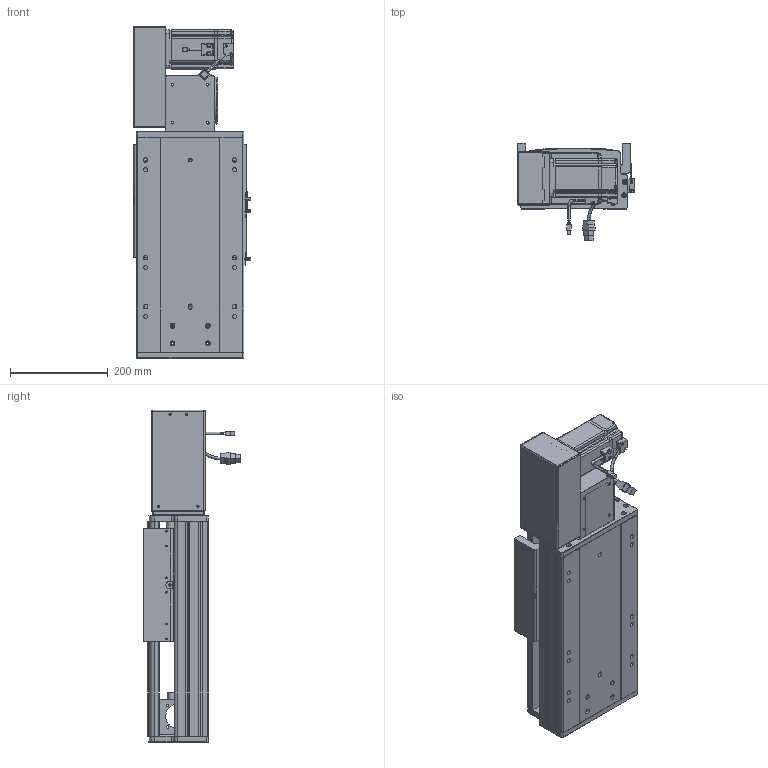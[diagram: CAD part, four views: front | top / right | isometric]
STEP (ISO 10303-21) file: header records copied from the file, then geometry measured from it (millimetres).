
FILE_DESCRIPTION (( 'STEP AP203' ), '1' );
FILE_NAME ('RY220-T-300-LK.SLDASM_100.step', '2022-07-25T08:12:48', ( '' ), ( '' ), 'SwSTEP 2.0', 'SolidWorks 2016', '' );
FILE_SCHEMA (( 'CONFIG_CONTROL_DESIGN' ));
Length unit declared in the file: millimetre
Products named in the file (14): RY220-俋离672覜茼んえ; RY220-同步轮副支撑座6304×2; RY220-T-湍謫欶(鍼踢); RY220翋肮祭謫釱; RY220翋肮祭謫裔啣; RY220-T菁釱-300_100; RY220-T-300-奻裔啣_100; 怢湛750W_ECMA-CX0807ES; RY220-T-蛌殏萇儂假蚾啣(750W); 滅袉蝶18-15; RY220-T-300-LK.SLDASM_100; 覜茼ん672; RY220圉猾敕々湍臏賑輸; 110A-T-肮祭謫釱傷裔
Assembly tree (18 placements, depth 2):
  RY220-T-300-LK.SLDASM_100
    RY220-T菁釱-300_100
    RY220翋肮祭謫釱
    覜茼ん672  x3
    RY220圉猾敕々湍臏賑輸
    RY220-T-300-奻裔啣_100
    RY220-俋离672覜茼んえ
    滅袉蝶18-15  x3
    RY220翋肮祭謫裔啣  x2
    110A-T-肮祭謫釱傷裔
    怢湛750W_ECMA-CX0807ES
    RY220-T-湍謫欶(鍼踢)
    RY220-T-蛌殏萇儂假蚾啣(750W)
    RY220-同步轮副支撑座6304×2
Bounding box: 239.7 x 198.77 x 679 mm (x, y, z)
Volume: 6434215.2 mm3; surface area: 1682251.9 mm2
Topology: 19 solids, 19 shells, 2448 faces, 6743 edges, 4312 vertices
Faces by surface type: cylinder 1108, plane 1069, cone 189, bspline 56, sphere 16, torus 10
Entity records: 81315 total; most frequent: CARTESIAN_POINT 23359, ORIENTED_EDGE 12090, DIRECTION 11268, EDGE_CURVE 6045, VERTEX_POINT 3936, AXIS2_PLACEMENT_3D 3930, VECTOR 3408, LINE 3408
